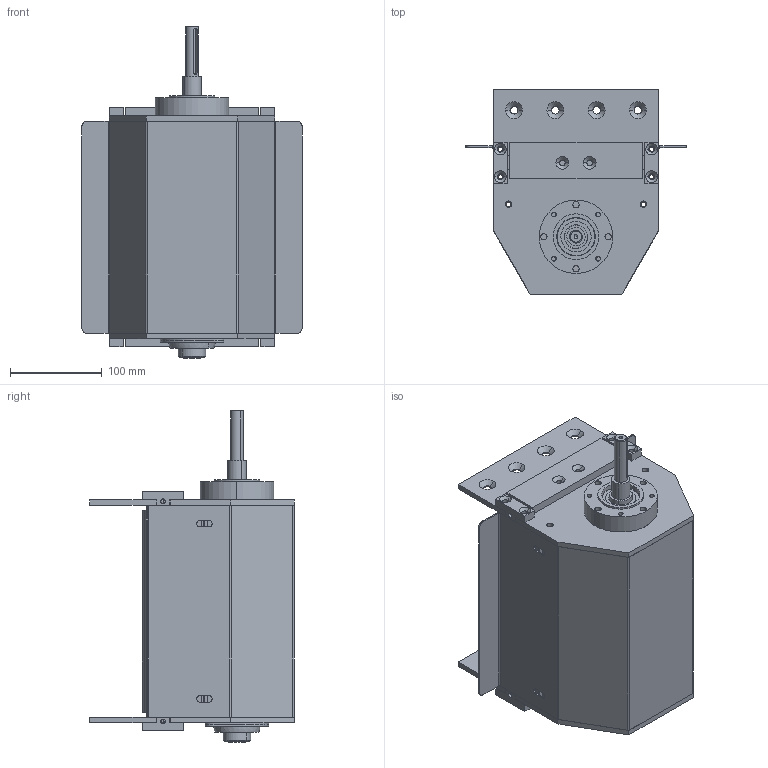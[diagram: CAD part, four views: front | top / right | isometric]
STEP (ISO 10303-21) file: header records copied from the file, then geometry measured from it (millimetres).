
FILE_DESCRIPTION (( 'STEP AP203' ), '1' );
FILE_NAME ('084.050.KCS.30.200.step', '2014-02-18T11:36:22', ( '' ), ( '' ), 'SwSTEP 2.0', 'SolidWorks 2012', '' );
FILE_SCHEMA (( 'CONFIG_CONTROL_DESIGN' ));
Length unit declared in the file: millimetre
Products named in the file (16): 084.050.KCS.30.200; 084.802.012_Solo centrale; 084.802.004-1; 084.802.020; 084.812.003; 084.802.003; CUSCINETTI A SFERE_6004-2RS; 084.817.028; 084.814.001-1; 084.817.025_Default<A macchina>; 084.802.009; 084.810.003; 084.817.026; TRAVERSA PER CARTER^084.050.KCS.30.200_Default<A macchina>; 084.817.027; 084.802.021
Assembly tree (27 placements, depth 2):
  084.050.KCS.30.200
    084.817.028  x2
    084.817.025_Default<A macchina>
    084.817.026
    084.817.027  x2
    TRAVERSA PER CARTER^084.050.KCS.30.200_Default<A macchina>  x2
    084.802.009
    084.802.021
    084.814.001-1
    084.810.003  x2
    084.802.004-1  x4
    084.802.020
    084.812.003
    084.802.003  x2
    CUSCINETTI A SFERE_6004-2RS  x4
    084.802.012_Solo centrale  x2
Bounding box: 240 x 223 x 362 mm (x, y, z)
Volume: 2048068.7 mm3; surface area: 1083389.1 mm2
Topology: 29 solids, 29 shells, 1033 faces, 2602 edges, 1676 vertices
Faces by surface type: plane 440, cylinder 390, cone 125, torus 68, sphere 10
Entity records: 21175 total; most frequent: DIRECTION 3547, CARTESIAN_POINT 3339, ORIENTED_EDGE 3118, EDGE_CURVE 1559, AXIS2_PLACEMENT_3D 1347, VERTEX_POINT 1003, LINE 853, VECTOR 853
